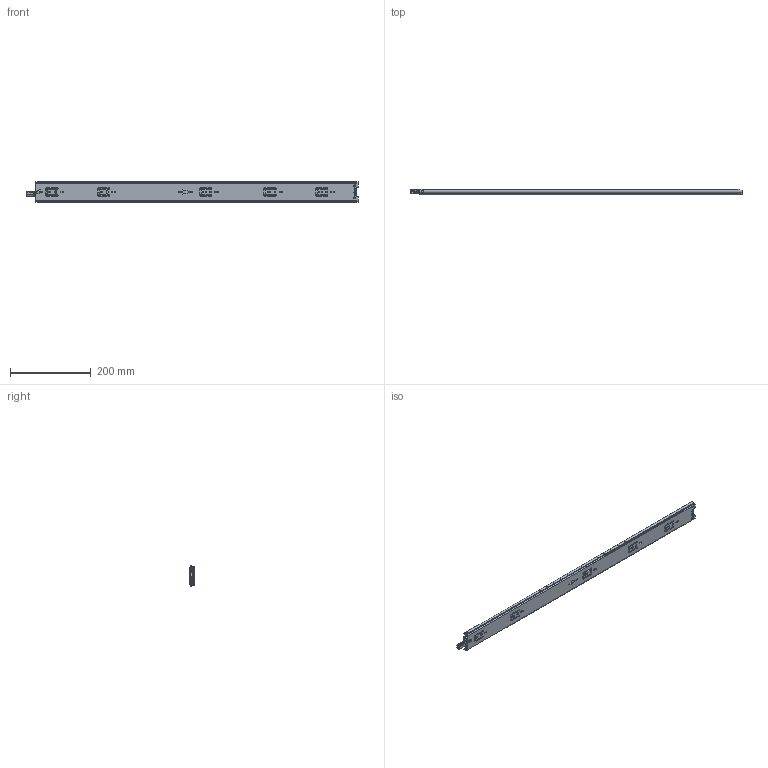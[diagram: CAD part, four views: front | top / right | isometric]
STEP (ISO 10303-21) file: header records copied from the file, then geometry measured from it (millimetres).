
FILE_DESCRIPTION((''),'2;1');
FILE_NAME('KP-50-3S-32ZUO_ASM','2023-05-06T',('jishu015'),(''),'PRO/ENGINEER BY PARAMETRIC TECHNOLOGY CORPORATION, 2010280','PRO/ENGINEER BY PARAMETRIC TECHNOLOGY CORPORATION, 2010280','');
FILE_SCHEMA(('CONFIG_CONTROL_DESIGN'));
Products named in the file (19): KP-50-01WAIKE18112____; KP-50-01ZHONGGIU20______; ZHONGGUIPEIJIAN21____; 50BAIKO12____; KP-53-01ZHONGGUI-1854________ASM; KP-50-01ZHUJIA-16GE43_______; 4-76GANZHU21____; KP-50-01ZHUJIA-16GE23________ASM; KP-50-01NEIGUI121____; YH1050BANJI12____; PIAN12____; JIAO12____; DAOPIAN21____; ZOU-121____; KP53-0NEIGUI21_____ASM; 50ZHUTIAO21____; 50ZHUTIAO21_____ASM; CHANGGUI1045WEIJIAO232_____; KP-50-3S-32ZUO_ASM
Assembly tree (92 placements, depth 3):
  KP-50-3S-32ZUO_ASM
    KP-50-01WAIKE18112____
    KP-53-01ZHONGGUI-1854________ASM
      KP-50-01ZHONGGIU20______
      ZHONGGUIPEIJIAN21____
      50BAIKO12____
    KP-50-01ZHUJIA-16GE23________ASM
      KP-50-01ZHUJIA-16GE43_______
      4-76GANZHU21____  x60
    KP53-0NEIGUI21_____ASM
      KP-50-01NEIGUI121____
      YH1050BANJI12____
      PIAN12____
      JIAO12____
      DAOPIAN21____
      ZOU-121____
    50ZHUTIAO21_____ASM  x2
      50ZHUTIAO21____
      4-76GANZHU21____
    CHANGGUI1045WEIJIAO232_____
Bounding box: 823.8 x 13 x 50 mm (x, y, z)
Volume: 240435.5 mm3; surface area: 317792.1 mm2
Topology: 102 solids, 103 shells, 2507 faces, 7358 edges, 4516 vertices
Faces by surface type: cylinder 1114, plane 978, sphere 178, bspline 175, torus 25, extrusion 23, cone 14
Entity records: 82898 total; most frequent: CARTESIAN_POINT 21656, ORIENTED_EDGE 13108, DIRECTION 12572, EDGE_CURVE 6556, AXIS2_PLACEMENT_3D 4280, VERTEX_POINT 4158, VECTOR 4012, LINE 3989
